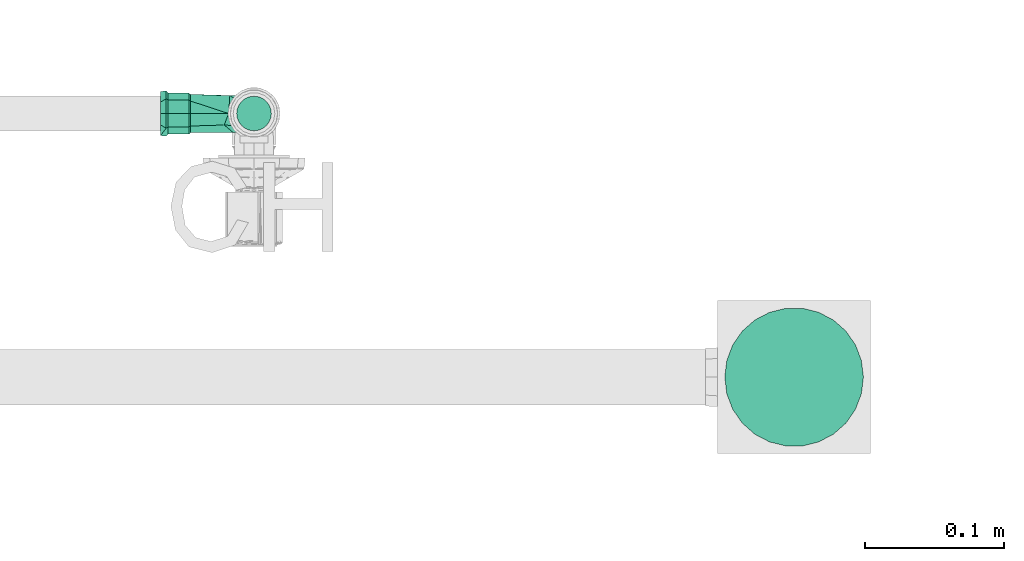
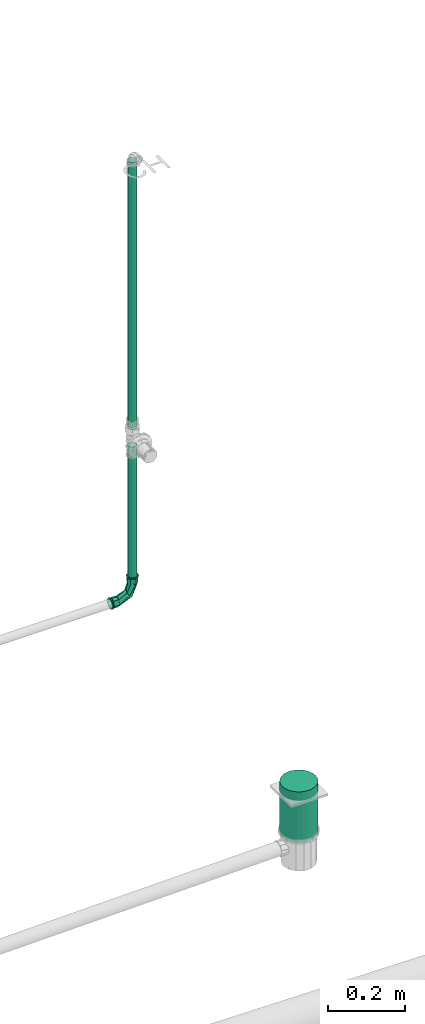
# One storey, part 298 of 589: 3 flow segments, 1 flow fitting.
"""IFC2X3 building model written with IfcOpenShell, lengths in millimetres."""

from ifc_helpers import new_model, entity, si_unit, converted_unit, derived_unit, direction, frame, frame_2d, origin, origin_2d_with_axis, place, context, subcontext, project, spatial, circle, extrude, faceted_brep, source, transform, mapped, material, type_object, type_shapes, element, save


model = new_model("IFC2X3")

# Units and contexts
model_context = context("Model", 3, precision=0.01, world=origin(), true_north=direction((6.123031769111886e-17, 1.0)))
body_context = subcontext(model_context, "Body", "Model", "MODEL_VIEW")
ifc_project = project(units=[si_unit("LENGTHUNIT", "METRE", prefix="MILLI"), si_unit("AREAUNIT", "SQUARE_METRE"), si_unit("VOLUMEUNIT", "CUBIC_METRE"), converted_unit("PLANEANGLEUNIT", "DEGREE", entity("IfcRatioMeasure", 0.017453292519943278), si_unit("PLANEANGLEUNIT", "RADIAN"), dimensions=[0, 0, 0, 0, 0, 0, 0]), si_unit("MASSUNIT", "GRAM", prefix="KILO"), derived_unit("MASSDENSITYUNIT", [(si_unit("MASSUNIT", "GRAM", prefix="KILO"), 1), (si_unit("LENGTHUNIT", "METRE"), -3)]), derived_unit("IONCONCENTRATIONUNIT", [(si_unit("MASSUNIT", "GRAM", prefix="KILO"), 1), (si_unit("LENGTHUNIT", "METRE"), -3)]), derived_unit("MOMENTOFINERTIAUNIT", [(si_unit("LENGTHUNIT", "METRE"), 4)]), si_unit("TIMEUNIT", "SECOND"), si_unit("FREQUENCYUNIT", "HERTZ"), si_unit("THERMODYNAMICTEMPERATUREUNIT", "DEGREE_CELSIUS"), derived_unit("THERMALTRANSMITTANCEUNIT", [(si_unit("MASSUNIT", "GRAM", prefix="KILO"), 1), (si_unit("THERMODYNAMICTEMPERATUREUNIT", "KELVIN"), -1), (si_unit("TIMEUNIT", "SECOND"), -3)]), derived_unit("THERMALCONDUCTANCEUNIT", [(si_unit("MASSUNIT", "GRAM", prefix="KILO"), 1), (si_unit("THERMODYNAMICTEMPERATUREUNIT", "KELVIN"), -1), (si_unit("TIMEUNIT", "SECOND"), -3), (si_unit("LENGTHUNIT", "METRE"), 1)]), derived_unit("VOLUMETRICFLOWRATEUNIT", [(si_unit("LENGTHUNIT", "METRE"), 3), (si_unit("TIMEUNIT", "SECOND"), -1)]), derived_unit("MASSFLOWRATEUNIT", [(si_unit("MASSUNIT", "GRAM", prefix="KILO"), 1), (si_unit("TIMEUNIT", "SECOND"), -1)]), derived_unit("ROTATIONALFREQUENCYUNIT", [(si_unit("TIMEUNIT", "SECOND"), -1)]), si_unit("ELECTRICCURRENTUNIT", "AMPERE"), si_unit("ELECTRICVOLTAGEUNIT", "VOLT"), si_unit("POWERUNIT", "WATT"), si_unit("FORCEUNIT", "NEWTON", prefix="KILO"), si_unit("ILLUMINANCEUNIT", "LUX"), si_unit("LUMINOUSFLUXUNIT", "LUMEN"), si_unit("LUMINOUSINTENSITYUNIT", "CANDELA"), derived_unit("USERDEFINED", [(si_unit("MASSUNIT", "GRAM", prefix="KILO"), -1), (si_unit("LENGTHUNIT", "METRE"), -2), (si_unit("TIMEUNIT", "SECOND"), 3), (si_unit("LUMINOUSFLUXUNIT", "LUMEN"), 1)]), derived_unit("USERDEFINED", [(si_unit("MASSUNIT", "GRAM", prefix="KILO"), 1), (si_unit("TIMEUNIT", "SECOND"), -3), (si_unit("LENGTHUNIT", "METRE"), 3), (si_unit("ELECTRICCURRENTUNIT", "AMPERE"), -2)]), derived_unit("SOUNDPOWERUNIT", [(si_unit("MASSUNIT", "GRAM", prefix="KILO"), 1), (si_unit("TIMEUNIT", "SECOND"), -3), (si_unit("LENGTHUNIT", "METRE"), 2)]), derived_unit("SOUNDPRESSUREUNIT", [(si_unit("MASSUNIT", "GRAM", prefix="KILO"), 1), (si_unit("LENGTHUNIT", "METRE"), -1), (si_unit("TIMEUNIT", "SECOND"), -2)]), derived_unit("LINEARVELOCITYUNIT", [(si_unit("LENGTHUNIT", "METRE"), 1), (si_unit("TIMEUNIT", "SECOND"), -1)]), si_unit("PRESSUREUNIT", "PASCAL"), derived_unit("USERDEFINED", [(si_unit("MASSUNIT", "GRAM", prefix="KILO"), 1), (si_unit("LENGTHUNIT", "METRE"), -2), (si_unit("TIMEUNIT", "SECOND"), -2)]), derived_unit("LINEARFORCEUNIT", [(si_unit("MASSUNIT", "GRAM", prefix="KILO"), 1), (si_unit("TIMEUNIT", "SECOND"), -2)]), derived_unit("PLANARFORCEUNIT", [(si_unit("MASSUNIT", "GRAM", prefix="KILO"), 1), (si_unit("LENGTHUNIT", "METRE"), -1), (si_unit("TIMEUNIT", "SECOND"), -2)]), derived_unit("SPECIFICHEATCAPACITYUNIT", [(si_unit("THERMODYNAMICTEMPERATUREUNIT", "KELVIN"), -1), (si_unit("LENGTHUNIT", "METRE"), 2), (si_unit("TIMEUNIT", "SECOND"), -2)]), derived_unit("HEATINGVALUEUNIT", [(si_unit("LENGTHUNIT", "METRE"), 2), (si_unit("TIMEUNIT", "SECOND"), -2)]), derived_unit("VAPORPERMEABILITYUNIT", [(si_unit("LENGTHUNIT", "METRE"), -1), (si_unit("TIMEUNIT", "SECOND"), 1)]), derived_unit("DYNAMICVISCOSITYUNIT", [(si_unit("MASSUNIT", "GRAM", prefix="KILO"), 1), (si_unit("TIMEUNIT", "SECOND"), -1), (si_unit("LENGTHUNIT", "METRE"), -1)]), derived_unit("THERMALEXPANSIONCOEFFICIENTUNIT", [(si_unit("THERMODYNAMICTEMPERATUREUNIT", "KELVIN"), -1)]), derived_unit("MODULUSOFELASTICITYUNIT", [(si_unit("MASSUNIT", "GRAM", prefix="KILO"), 1), (si_unit("LENGTHUNIT", "METRE"), -1), (si_unit("TIMEUNIT", "SECOND"), -2)]), derived_unit("ISOTHERMALMOISTURECAPACITYUNIT", [(si_unit("LENGTHUNIT", "METRE"), 3), (si_unit("MASSUNIT", "GRAM", prefix="KILO"), -1)]), derived_unit("MOISTUREDIFFUSIVITYUNIT", [(si_unit("TIMEUNIT", "SECOND"), -1), (si_unit("LENGTHUNIT", "METRE"), 2)])], contexts=[model_context])

# Site, building, storey
site_placement = place(None, origin())
site = spatial("IfcSite", under=ifc_project, at=site_placement, Name="Default", CompositionType="ELEMENT")
building_placement = place(site_placement, origin())
building = spatial("IfcBuilding", under=site, at=building_placement, CompositionType="ELEMENT")
storey_placement = place(building_placement, frame((0.0, 0.0, 100.0)))
storey = spatial("IfcBuildingStorey", under=building, at=storey_placement, Name="TÉRREO", CompositionType="ELEMENT", Elevation=100.0)

# Flow segments
pipe_segment_type_1 = type_object("IfcPipeSegmentType", Name="Tipos de tubos:PVC Esgoto Série Normal", PredefinedType="NOTDEFINED")
flow_segment_1_placement = place(storey_placement, origin())
element("IfcFlowSegment", 1, at=flow_segment_1_placement, inside=storey, type_object=pipe_segment_type_1, Name="Tipos de tubos:PVC Esgoto Série Normal", ObjectType="Tipos de tubos:PVC Esgoto Série Normal", context=body_context, shape_type="SweptSolid", body=[
    extrude(circle(Radius=50.0, at=origin_2d_with_axis()), frame((7560.256574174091, 7345.807722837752, -168.1288115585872), z_axis=(0.0, 0.0, 1.0), x_axis=(-1.0, 0.0, 0.0)), (0.0, 0.0, 1.0), 161.62881155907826),
])
pipe_segment_type_2 = type_object("IfcPipeSegmentType", Name="Tipos de tubos:PVC Marrom Soldável", PredefinedType="NOTDEFINED")
flow_segment_2_placement = place(storey_placement, origin())
element("IfcFlowSegment", 2, at=flow_segment_2_placement, inside=storey, type_object=pipe_segment_type_2, Name="Tipos de tubos:PVC Marrom Soldável", ObjectType="Tipos de tubos:PVC Marrom Soldável", context=body_context, shape_type="SweptSolid", body=[
    extrude(circle(Radius=12.5, at=frame_2d((0.0, -1.0828671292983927e-12), x_axis=(1.0, 0.0))), frame((7170.736711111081, 7535.924752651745, 646.9899999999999)), (0.0, 0.0, 1.0), 434.0100000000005),
])
flow_segment_3_placement = place(storey_placement, origin())
element("IfcFlowSegment", 3, at=flow_segment_3_placement, inside=storey, type_object=pipe_segment_type_2, Name="Tipos de tubos:PVC Marrom Soldável", ObjectType="Tipos de tubos:PVC Marrom Soldável", context=body_context, shape_type="SweptSolid", body=[
    extrude(circle(Radius=12.5, at=frame_2d((0.0, -1.0828671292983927e-12), x_axis=(1.0, 0.0))), frame((7170.736711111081, 7535.924752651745, 1136.499997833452)), (0.0, 0.0, 1.0), 847.200002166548),
])

# Flow fitting
ifc_material = material(Name="PVC Marrom")
pipe_fitting_type = type_object("IfcPipeFittingType", Name="PVC Marrom Soldável_Curva 45°_90°_Rodrigo MEP:Curva", PredefinedType="NOTDEFINED", material=ifc_material)
shared_shape = source(origin(), body_context, "Body", "Brep", [
    faceted_brep([(-67.38999999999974, -4.270514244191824, -15.937776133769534), (-67.38999999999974, -3.2352380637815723, -12.074072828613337), (-67.38999999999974, 3.235238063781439, -12.074072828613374), (-67.38999999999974, -14.289419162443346, -8.249999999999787), (-67.38999999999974, 4.270514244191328, -15.937776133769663), (-67.38999999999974, -10.825317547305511, -6.249999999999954), (-67.38999999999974, -12.5, 0.0), (-67.38999999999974, -16.5, 0.0), (-67.38999999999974, -10.825317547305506, 6.249999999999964), (-67.38999999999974, -14.28941916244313, 8.24999999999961), (-67.38999999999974, -3.2352380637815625, 12.074072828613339), (-67.38999999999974, -4.270514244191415, 15.937776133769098), (-67.38999999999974, 3.23523806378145, 12.07407282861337), (-67.38999999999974, 4.27051424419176, 15.937776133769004), (-67.38999999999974, 10.825317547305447, 6.250000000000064), (-67.38999999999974, 14.289419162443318, 8.249999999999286), (-67.38999999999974, 16.500000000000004, 0.0), (-67.38999999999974, 12.5, 0.0), (-67.38999999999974, 14.289419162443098, -8.250000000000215), (-67.38999999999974, 10.82531754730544, -6.250000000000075), (-63.389999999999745, 16.5, 0.0), (-63.39000000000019, 12.63914207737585, 10.606700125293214), (-63.3900000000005, 2.8633833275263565, 16.249647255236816), (-63.390000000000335, -12.641802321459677, 10.603529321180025), (-63.389999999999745, -16.5, 0.0), (-63.39000000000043, -4.889209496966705, 13.426588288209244), (-63.38999999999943, -12.641802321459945, -10.603529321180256), (-63.38999999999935, -2.8674593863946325, -16.248928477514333), (-63.389999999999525, 12.63914207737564, -10.606700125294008), (-63.38999999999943, 4.885841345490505, -13.42781430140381), (-61.989999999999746, -15.1, 0.0), (-61.99000000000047, -11.569164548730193, 9.703835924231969), (16.49999999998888, 63.38999999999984, 0.0), (12.64180232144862, 63.390000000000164, 10.603529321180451), (15.09999999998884, 61.990000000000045, 0.0), (-61.990000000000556, -4.474367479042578, 12.287362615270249), (-61.99000000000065, 2.620429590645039, 14.870889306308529), (-61.99000000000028, 11.56673002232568, 9.706737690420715), (-61.98999999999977, 15.099999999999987, 0.0), (-61.9899999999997, 11.566730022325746, -9.706737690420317), (-61.989999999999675, 4.47128511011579, -12.288484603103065), (-61.989999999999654, -2.624159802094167, -14.870231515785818), (-61.989999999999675, -11.569164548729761, -9.703835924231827), (12.641802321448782, 63.39000000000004, -10.603529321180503), (-46.98999999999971, 11.566730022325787, 9.706737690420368), (-46.98999999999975, 15.100000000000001, 0.0), (-46.98999999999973, 2.620429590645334, 14.870889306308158), (-46.98999999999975, -15.099999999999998, 0.0), (-46.98999999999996, -11.569164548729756, 9.703835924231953), (-46.99000000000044, -4.474367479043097, 12.287362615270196), (-46.9899999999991, -11.569164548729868, -9.703835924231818), (-46.9899999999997, -2.624159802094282, -14.870231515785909), (-46.99000000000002, 11.566730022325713, -9.706737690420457), (-46.989999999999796, 4.471285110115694, -12.28848460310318), (-45.88999999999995, -2.4364789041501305, -13.82697257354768), (-45.889999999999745, 14.040000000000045, 0.0), (-45.88999999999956, 10.757024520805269, -9.022639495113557), (-45.88999999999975, 4.160272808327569, -11.424806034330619), (-45.889999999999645, -10.754760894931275, -9.025337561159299), (-45.88999999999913, -14.040000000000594, 0.0), (-45.89000000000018, -10.754760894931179, 9.025337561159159), (-45.890000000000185, -4.15740681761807, 11.425849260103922), (-45.890000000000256, 10.75702452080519, 9.022639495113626), (-45.89000000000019, 2.4399472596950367, 13.826360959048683), (-17.45161529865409, 17.451615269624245, 12.843264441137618), (-14.117491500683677, 4.637376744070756, 12.606776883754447), (-3.5130906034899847, 3.5130906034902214, 0.0), (-2.439947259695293, 45.89000000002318, 13.826360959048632), (-10.7570245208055, 45.890000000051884, 9.022639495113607), (-29.96499999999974, 18.307090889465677, 0.0), (10.754760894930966, 45.89000000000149, 9.025337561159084), (4.1574068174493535, 45.89000000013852, 11.425849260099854), (14.040000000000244, 45.88999999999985, 0.0), (-14.039999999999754, 45.88999999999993, 0.0), (-16.50793867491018, 15.12119401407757, -13.635559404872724), (-10.757024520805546, 45.88999999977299, -9.022639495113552), (-4.160272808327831, 45.88999999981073, -11.424806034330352), (2.436478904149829, 45.88999999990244, -13.826972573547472), (-21.46430585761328, 21.464304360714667, -8.268649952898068), (-8.332046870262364, 6.525167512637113, -11.161166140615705), (10.754760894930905, 45.88999999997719, -9.025337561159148), (11.566730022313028, 46.9899999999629, -9.706737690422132), (15.099999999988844, 46.99000000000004, 0.0), (2.6204295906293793, 46.98999999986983, -14.870889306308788), (-11.56916454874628, 46.989999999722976, -9.703835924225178), (-4.47436747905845, 46.98999999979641, -12.287362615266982), (-15.100000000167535, 46.98999999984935, 0.0), (-11.569164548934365, 46.990000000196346, 9.703835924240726), (-2.624159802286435, 46.990000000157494, 14.87023151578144), (11.566730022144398, 46.99000000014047, 9.706737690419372), (4.471285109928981, 46.99000000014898, 12.288484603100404), (11.566730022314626, 61.99000000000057, 9.706737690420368), (4.471285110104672, 61.99000000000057, 12.288484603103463), (-2.624159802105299, 61.99000000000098, 14.870231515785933), (-11.569164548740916, 61.99000000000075, 9.703835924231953), (-15.100000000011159, 61.99000000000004, 0.0), (-11.569164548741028, 61.990000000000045, -9.703835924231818), (-4.474367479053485, 61.989999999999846, -12.287362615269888), (2.6204295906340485, 61.989999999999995, -14.870889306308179), (11.566730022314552, 61.99000000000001, -9.706737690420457), (-12.639142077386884, 63.39000000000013, 10.606700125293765), (-16.500000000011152, 63.38999999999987, 0.0), (-2.863383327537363, 63.390000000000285, 16.249647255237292), (4.889209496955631, 63.39000000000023, 13.426588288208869), (2.867459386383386, 63.390000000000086, -16.24892847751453), (-12.639142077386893, 63.39, -10.606700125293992), (-4.885841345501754, 63.39000000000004, -13.42781430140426), (-4.270514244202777, 67.38999999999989, -15.937776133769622), (-3.2352380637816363, 67.38999999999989, -12.074072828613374), (3.235238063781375, 67.38999999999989, -12.074072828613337), (-14.289419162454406, 67.38999999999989, -8.249999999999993), (4.2705142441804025, 67.38999999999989, -15.937776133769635), (-10.825317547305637, 67.38999999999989, -6.250000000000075), (-12.500000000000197, 67.38999999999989, 0.0), (-16.500000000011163, 67.38999999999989, 0.0), (-10.825317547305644, 67.38999999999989, 6.250000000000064), (-14.289419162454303, 67.38999999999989, 8.250000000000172), (-3.2352380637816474, 67.38999999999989, 12.07407282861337), (-4.270514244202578, 67.38999999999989, 15.937776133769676), (3.2352380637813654, 67.38999999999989, 12.074072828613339), (4.270514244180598, 67.38999999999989, 15.937776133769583), (10.825317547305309, 67.38999999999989, 6.249999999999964), (14.289419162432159, 67.38999999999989, 8.249999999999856), (16.499999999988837, 67.38999999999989, 0.0), (12.499999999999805, 67.38999999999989, 0.0), (14.289419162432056, 67.38999999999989, -8.250000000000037), (10.825317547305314, 67.38999999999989, -6.249999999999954), (-46.98999999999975, -10.825317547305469, -6.2500000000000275), (-46.98999999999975, -12.5, 0.0), (-46.98999999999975, -10.825317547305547, 6.249999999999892), (-46.98999999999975, -3.235238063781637, 12.074072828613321), (-46.98999999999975, 3.2352380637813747, 12.07407282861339), (-46.98999999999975, 10.825317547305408, 6.250000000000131), (-46.98999999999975, 12.5, 0.0), (-46.98999999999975, 10.825317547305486, -6.249999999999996), (-46.98999999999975, 3.2352380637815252, -12.07407282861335), (-46.98999999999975, -3.2352380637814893, -12.07407282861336), (3.2352380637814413, 46.99000000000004, 12.074072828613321), (-3.2352380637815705, 46.99000000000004, 12.07407282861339), (-3.235238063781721, 46.99000000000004, -12.07407282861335), (3.235238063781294, 46.99000000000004, -12.07407282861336), (-10.825317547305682, 46.990000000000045, -6.249999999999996), (-12.500000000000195, 46.990000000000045, 0.0), (-10.825317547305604, 46.990000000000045, 6.250000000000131), (10.825317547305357, 46.99000000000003, 6.249999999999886), (12.499999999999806, 46.99000000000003, 0.0), (10.825317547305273, 46.99000000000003, -6.2500000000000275)], [[[0, 1, 2]], [[1, 0, 3]], [[2, 4, 0]], [[3, 5, 1]], [[3, 6, 5]], [[6, 3, 7]], [[8, 6, 7]], [[8, 7, 9]], [[9, 10, 8]], [[9, 11, 10]], [[10, 11, 12]], [[13, 12, 11]], [[13, 14, 12]], [[14, 13, 15]], [[16, 14, 15]], [[17, 14, 16]], [[18, 17, 16]], [[18, 19, 17]], [[19, 18, 4]], [[4, 2, 19]], [[16, 15, 20]], [[15, 21, 20]], [[21, 15, 13]], [[21, 13, 22]], [[23, 11, 9]], [[24, 9, 7]], [[11, 23, 25, 22]], [[23, 9, 24]], [[11, 22, 13]], [[7, 3, 24]], [[3, 26, 24]], [[26, 3, 0]], [[26, 0, 27]], [[28, 4, 18]], [[20, 18, 16]], [[4, 28, 29, 27]], [[28, 18, 20]], [[4, 27, 0]], [[30, 31, 23, 24]], [[32, 33, 34]], [[31, 35, 36, 22, 25, 23]], [[37, 38, 20, 21]], [[37, 21, 22, 36]], [[38, 39, 28, 20]], [[39, 40, 41, 27, 29, 28]], [[42, 30, 24, 26]], [[43, 32, 34]], [[42, 26, 27, 41]], [[38, 37, 44, 45]], [[44, 37, 36, 46]], [[31, 30, 47, 48]], [[31, 48, 49, 46, 36, 35]], [[30, 42, 50, 47]], [[50, 42, 41, 51]], [[39, 38, 45, 52]], [[39, 52, 53, 51, 41, 40]], [[53, 54, 51]], [[55, 56, 45]], [[45, 56, 52]], [[52, 57, 53]], [[58, 59, 50]], [[52, 56, 57]], [[50, 51, 58]], [[47, 50, 59]], [[54, 53, 57]], [[58, 51, 54]], [[59, 60, 48]], [[48, 47, 59]], [[60, 49, 48]], [[60, 61, 49]], [[61, 46, 49]], [[62, 55, 45]], [[62, 44, 63]], [[44, 62, 45]], [[46, 61, 63]], [[63, 44, 46]], [[63, 64, 62]], [[63, 65, 64]], [[66, 65, 60]], [[67, 68, 64]], [[62, 69, 55]], [[69, 62, 64]], [[65, 63, 61, 60]], [[60, 59, 66]], [[65, 70, 71, 67]], [[66, 72, 70]], [[64, 65, 67]], [[68, 73, 69]], [[68, 69, 64]], [[70, 65, 66]], [[56, 55, 69]], [[74, 75, 76, 77]], [[78, 74, 56]], [[79, 54, 74]], [[58, 54, 79]], [[59, 58, 66]], [[69, 78, 56]], [[80, 79, 77]], [[66, 58, 79]], [[74, 77, 79]], [[66, 80, 72]], [[66, 79, 80]], [[74, 78, 75]], [[74, 54, 57, 56]], [[78, 73, 75]], [[73, 78, 69]], [[72, 80, 81, 82]], [[83, 81, 80, 77]], [[84, 85, 83, 77, 76, 75]], [[75, 73, 86, 84]], [[73, 68, 87, 86]], [[88, 87, 68, 67]], [[89, 90, 88, 67, 71, 70]], [[70, 72, 82, 89]], [[34, 91, 89, 82]], [[89, 91, 92, 93, 88, 90]], [[94, 95, 86, 87]], [[94, 87, 88, 93]], [[95, 96, 84, 86]], [[84, 96, 97, 98, 83, 85]], [[99, 34, 82, 81]], [[99, 81, 83, 98]], [[94, 93, 100]], [[95, 94, 101]], [[101, 94, 100]], [[93, 102, 100]], [[91, 34, 33]], [[91, 33, 103]], [[92, 102, 93]], [[102, 92, 103]], [[92, 91, 103]], [[34, 99, 43]], [[104, 43, 99]], [[105, 106, 97]], [[99, 98, 104]], [[96, 95, 101]], [[105, 97, 96]], [[105, 96, 101]], [[98, 106, 104]], [[106, 98, 97]], [[107, 108, 109]], [[108, 107, 110]], [[109, 111, 107]], [[110, 112, 108]], [[110, 113, 112]], [[113, 110, 114]], [[115, 113, 114]], [[115, 114, 116]], [[116, 117, 115]], [[116, 118, 117]], [[117, 118, 119]], [[120, 119, 118]], [[120, 121, 119]], [[121, 120, 122]], [[123, 121, 122]], [[124, 121, 123]], [[125, 124, 123]], [[125, 126, 124]], [[126, 125, 111]], [[111, 109, 126]], [[123, 122, 32]], [[122, 33, 32]], [[33, 122, 120]], [[120, 102, 103, 33]], [[100, 118, 116]], [[101, 116, 114]], [[118, 100, 102]], [[100, 116, 101]], [[118, 102, 120]], [[114, 110, 101]], [[110, 105, 101]], [[105, 110, 107]], [[107, 104, 106, 105]], [[43, 111, 125]], [[32, 125, 123]], [[111, 43, 104]], [[43, 125, 32]], [[111, 104, 107]], [[127, 128, 129, 130, 131, 132, 133, 134, 135, 136]], [[129, 128, 6, 8]], [[130, 129, 8, 10]], [[10, 12, 131, 130]], [[137, 138, 117, 119]], [[132, 131, 12, 14]], [[133, 132, 14, 17]], [[134, 133, 17, 19]], [[135, 134, 19, 2]], [[2, 1, 136, 135]], [[139, 140, 109, 108]], [[127, 136, 1, 5]], [[128, 127, 5, 6]], [[139, 141, 142, 143, 138, 137, 144, 145, 146, 140]], [[121, 124, 145, 144]], [[119, 121, 144, 137]], [[115, 117, 138, 143]], [[113, 115, 143, 142]], [[112, 113, 142, 141]], [[108, 112, 141, 139]], [[126, 109, 140, 146]], [[124, 126, 146, 145]]]),
])
type_shapes(pipe_fitting_type, [shared_shape])
flow_fitting_placement = place(storey_placement, frame((7170.736711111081, 7535.924752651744, 600.0), z_axis=(0.0, 1.0, 0.0), x_axis=(0.0, 0.0, -1.0)))
element("IfcFlowFitting", 4, at=flow_fitting_placement, inside=storey, type_object=pipe_fitting_type, material=ifc_material, Name="PVC Marrom Soldável_Curva 45°_90°_Rodrigo MEP:Curva", ObjectType="PVC Marrom Soldável_Curva 45°_90°_Rodrigo MEP:Curva", context=body_context, shape_type="MappedRepresentation", body=[
    mapped(shared_shape, transform((0.0, 0.0, 0.0), scale=1.0)),
])

save(model, "model.ifc")
